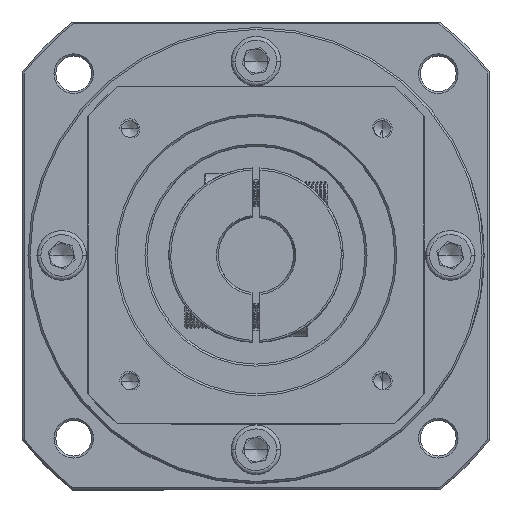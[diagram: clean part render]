
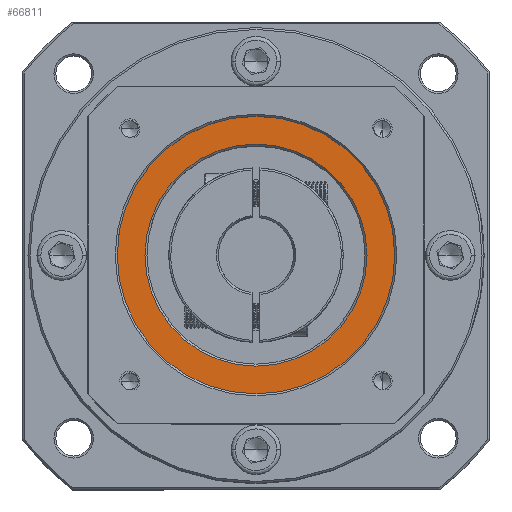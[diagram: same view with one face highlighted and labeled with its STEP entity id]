
A CAD part, top view. The second image highlights one B-rep face of the part: STEP entity #66811.
In plain terms, the highlighted planar face has unit normal (0, 0, 1).
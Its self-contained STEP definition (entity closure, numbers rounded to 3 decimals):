
#1076 = ORIENTED_EDGE ( 'NONE', *, *, #36985, .T. ) ;
#3568 = CARTESIAN_POINT ( 'NONE',  ( -89.577, 40.966, 10.175 ) ) ;
#7868 = CARTESIAN_POINT ( 'NONE',  ( -61.577, 40.966, 10.175 ) ) ;
#8032 = PLANE ( 'NONE',  #77747 ) ;
#12241 = DIRECTION ( 'NONE',  ( 1., 0., 0. ) ) ;
#15151 = DIRECTION ( 'NONE',  ( 0., 0., -1. ) ) ;
#20060 = ORIENTED_EDGE ( 'NONE', *, *, #109045, .T. ) ;
#20928 = CIRCLE ( 'NONE', #80847, 35. ) ;
#23052 = DIRECTION ( 'NONE',  ( 0., 0., 1. ) ) ;
#23297 = EDGE_CURVE ( 'NONE', #87517, #83691, #37798, .T. ) ;
#23402 = CARTESIAN_POINT ( 'NONE',  ( -124.577, 40.966, 10.175 ) ) ;
#26834 = CARTESIAN_POINT ( 'NONE',  ( -117.577, 40.966, 10.175 ) ) ;
#29853 = CARTESIAN_POINT ( 'NONE',  ( -89.577, 40.966, 10.175 ) ) ;
#36985 = EDGE_CURVE ( 'NONE', #83691, #87517, #65873, .T. ) ;
#37798 = CIRCLE ( 'NONE', #73989, 28. ) ;
#38591 = DIRECTION ( 'NONE',  ( 1., 0., 0. ) ) ;
#39494 = EDGE_LOOP ( 'NONE', ( #82001, #20060 ) ) ;
#43043 = FACE_BOUND ( 'NONE', #62622, .T. ) ;
#43085 = CARTESIAN_POINT ( 'NONE',  ( -89.577, 40.966, 10.175 ) ) ;
#49524 = VERTEX_POINT ( 'NONE', #23402 ) ;
#51802 = DIRECTION ( 'NONE',  ( 1., 0., 0. ) ) ;
#62622 = EDGE_LOOP ( 'NONE', ( #1076, #89259 ) ) ;
#64417 = DIRECTION ( 'NONE',  ( 0., 0., 1. ) ) ;
#65873 = CIRCLE ( 'NONE', #77502, 28. ) ;
#66811 = ADVANCED_FACE ( 'NONE', ( #86585, #43043 ), #8032, .T. ) ;
#67287 = CARTESIAN_POINT ( 'NONE',  ( -89.577, 40.966, 10.175 ) ) ;
#69977 = EDGE_CURVE ( 'NONE', #71675, #49524, #75986, .T. ) ;
#71675 = VERTEX_POINT ( 'NONE', #99918 ) ;
#73989 = AXIS2_PLACEMENT_3D ( 'NONE', #67287, #15151, #76094 ) ;
#75251 = CARTESIAN_POINT ( 'NONE',  ( -89.577, 40.966, 10.175 ) ) ;
#75986 = CIRCLE ( 'NONE', #90862, 35. ) ;
#76094 = DIRECTION ( 'NONE',  ( 1., 0., 0. ) ) ;
#77502 = AXIS2_PLACEMENT_3D ( 'NONE', #29853, #90732, #38591 ) ;
#77747 = AXIS2_PLACEMENT_3D ( 'NONE', #43085, #103860, #51802 ) ;
#80847 = AXIS2_PLACEMENT_3D ( 'NONE', #3568, #64417, #12241 ) ;
#82001 = ORIENTED_EDGE ( 'NONE', *, *, #69977, .T. ) ;
#83691 = VERTEX_POINT ( 'NONE', #7868 ) ;
#83969 = DIRECTION ( 'NONE',  ( 1., 0., 0. ) ) ;
#86585 = FACE_OUTER_BOUND ( 'NONE', #39494, .T. ) ;
#87517 = VERTEX_POINT ( 'NONE', #26834 ) ;
#89259 = ORIENTED_EDGE ( 'NONE', *, *, #23297, .T. ) ;
#90732 = DIRECTION ( 'NONE',  ( 0., 0., -1. ) ) ;
#90862 = AXIS2_PLACEMENT_3D ( 'NONE', #75251, #23052, #83969 ) ;
#99918 = CARTESIAN_POINT ( 'NONE',  ( -54.577, 40.966, 10.175 ) ) ;
#103860 = DIRECTION ( 'NONE',  ( 0., 0., 1. ) ) ;
#109045 = EDGE_CURVE ( 'NONE', #49524, #71675, #20928, .T. ) ;
